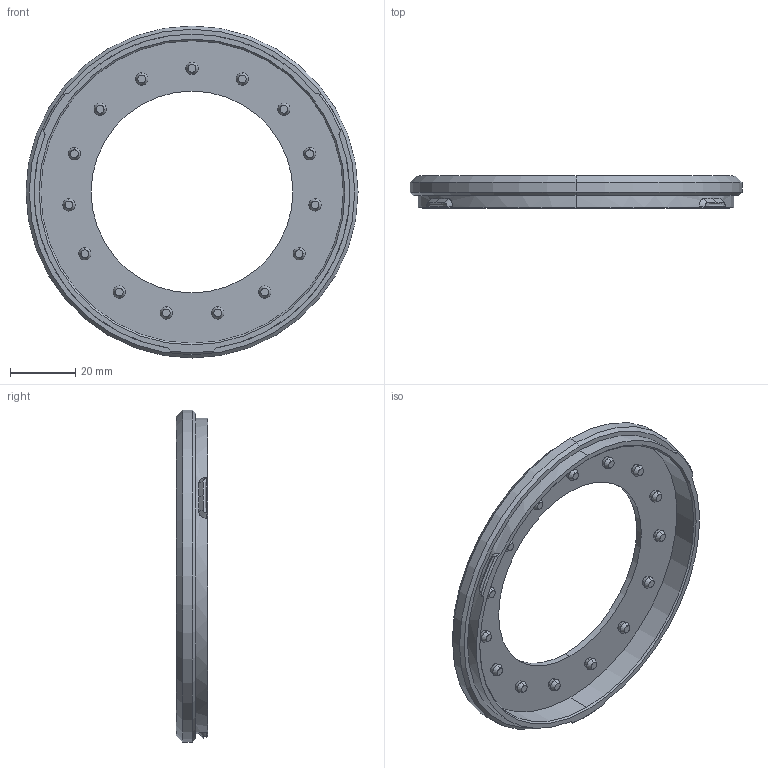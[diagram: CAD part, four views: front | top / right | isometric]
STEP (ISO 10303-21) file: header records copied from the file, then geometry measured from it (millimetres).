
FILE_DESCRIPTION (( 'STEP AP214' ), '1' );
FILE_NAME ('Inner Ring NO-TEXT.STEP', '2023-02-16T06:03:16', ( '' ), ( '' ), 'SwSTEP 2.0', 'SolidWorks 2021', '' );
FILE_SCHEMA (( 'AUTOMOTIVE_DESIGN' ));
Length unit declared in the file: millimetre
Products named in the file (1): Inner Ring NO-TEXT
Bounding box: 102 x 9.8 x 102 mm (x, y, z)
Volume: 17672.6 mm3; surface area: 15844.4 mm2
Topology: 1 solids, 1 shells, 129 faces, 303 edges, 193 vertices
Faces by surface type: cone 75, plane 31, bspline 12, cylinder 11
Entity records: 4660 total; most frequent: CARTESIAN_POINT 1627, DIRECTION 657, ORIENTED_EDGE 606, EDGE_CURVE 303, AXIS2_PLACEMENT_3D 278, VERTEX_POINT 193, CIRCLE 160, EDGE_LOOP 148
